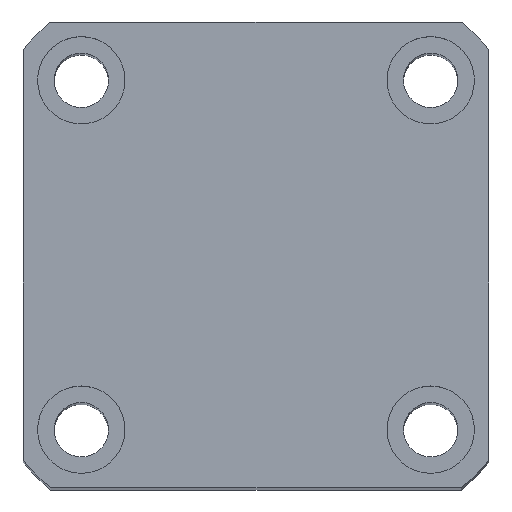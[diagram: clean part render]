
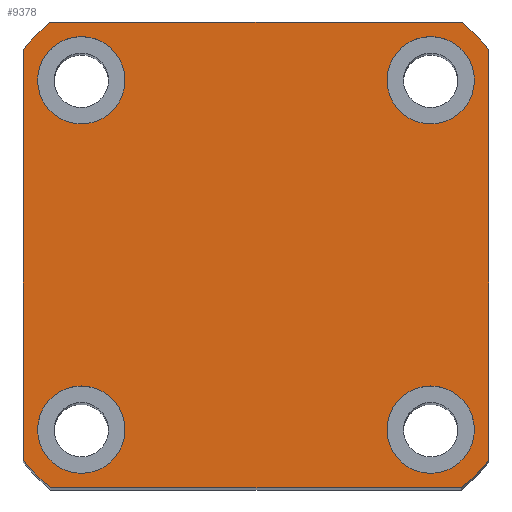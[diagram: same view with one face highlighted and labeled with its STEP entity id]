
A CAD part, top view. The second image highlights one B-rep face of the part: STEP entity #9378.
In plain terms, the highlighted planar face has unit normal (0, 0, 1) as drawn and (1, 0, 0) by its records, which use the part's own axes.
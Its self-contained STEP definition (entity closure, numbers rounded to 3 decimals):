
#14 = ORIENTED_EDGE ( 'NONE', *, *, #3415, .F. ) ;
#25 = EDGE_LOOP ( 'NONE', ( #6151, #2801 ) ) ;
#71 = FACE_BOUND ( 'NONE', #2604, .T. ) ;
#111 = ORIENTED_EDGE ( 'NONE', *, *, #1700, .T. ) ;
#141 = DIRECTION ( 'NONE',  ( 0., 0., -1. ) ) ;
#178 = CARTESIAN_POINT ( 'NONE',  ( 125., -24., 24. ) ) ;
#306 = CARTESIAN_POINT ( 'NONE',  ( 125., 21.166, 24. ) ) ;
#367 = AXIS2_PLACEMENT_3D ( 'NONE', #1210, #6965, #2026 ) ;
#671 = ORIENTED_EDGE ( 'NONE', *, *, #3177, .F. ) ;
#711 = DIRECTION ( 'NONE',  ( 1., 0., 0. ) ) ;
#719 = CARTESIAN_POINT ( 'NONE',  ( 125., 24., -21.166 ) ) ;
#810 = ORIENTED_EDGE ( 'NONE', *, *, #8453, .F. ) ;
#977 = AXIS2_PLACEMENT_3D ( 'NONE', #9831, #4869, #10656 ) ;
#1042 = DIRECTION ( 'NONE',  ( 1., 0., 0. ) ) ;
#1108 = DIRECTION ( 'NONE',  ( 1., 0., 0. ) ) ;
#1168 = CARTESIAN_POINT ( 'NONE',  ( 125., 18., -18. ) ) ;
#1170 = VERTEX_POINT ( 'NONE', #3659 ) ;
#1210 = CARTESIAN_POINT ( 'NONE',  ( 125., -18., -18. ) ) ;
#1281 = CARTESIAN_POINT ( 'NONE',  ( 125., 24., 24. ) ) ;
#1332 = AXIS2_PLACEMENT_3D ( 'NONE', #7980, #3022, #8814 ) ;
#1370 = LINE ( 'NONE', #3593, #7687 ) ;
#1700 = EDGE_CURVE ( 'NONE', #3286, #8715, #6644, .T. ) ;
#1781 = CIRCLE ( 'NONE', #1332, 4.5 ) ;
#1825 = CARTESIAN_POINT ( 'NONE',  ( 125., -18., -13.5 ) ) ;
#1840 = EDGE_LOOP ( 'NONE', ( #810, #671 ) ) ;
#1874 = EDGE_CURVE ( 'NONE', #7046, #5284, #5590, .T. ) ;
#1985 = DIRECTION ( 'NONE',  ( 0., 0., -1. ) ) ;
#1993 = DIRECTION ( 'NONE',  ( 1., 0., 0. ) ) ;
#2026 = DIRECTION ( 'NONE',  ( 0., 0., -1. ) ) ;
#2228 = AXIS2_PLACEMENT_3D ( 'NONE', #8843, #3882, #9677 ) ;
#2269 = CARTESIAN_POINT ( 'NONE',  ( 125., -24., -21.166 ) ) ;
#2272 = FACE_BOUND ( 'NONE', #9393, .T. ) ;
#2370 = CIRCLE ( 'NONE', #6762, 4.5 ) ;
#2452 = CARTESIAN_POINT ( 'NONE',  ( 125., -18., 13.5 ) ) ;
#2604 = EDGE_LOOP ( 'NONE', ( #7088, #9551 ) ) ;
#2664 = DIRECTION ( 'NONE',  ( 1., 0., 0. ) ) ;
#2686 = AXIS2_PLACEMENT_3D ( 'NONE', #5648, #711, #6485 ) ;
#2794 = EDGE_CURVE ( 'NONE', #8399, #5864, #5207, .T. ) ;
#2801 = ORIENTED_EDGE ( 'NONE', *, *, #2794, .F. ) ;
#2875 = DIRECTION ( 'NONE',  ( 0., -1., 0. ) ) ;
#2891 = EDGE_CURVE ( 'NONE', #4034, #3046, #9101, .T. ) ;
#2957 = CARTESIAN_POINT ( 'NONE',  ( 125., 24., 21.166 ) ) ;
#3022 = DIRECTION ( 'NONE',  ( 1., 0., 0. ) ) ;
#3046 = VERTEX_POINT ( 'NONE', #4027 ) ;
#3152 = VERTEX_POINT ( 'NONE', #2452 ) ;
#3177 = EDGE_CURVE ( 'NONE', #8342, #1170, #7534, .T. ) ;
#3286 = VERTEX_POINT ( 'NONE', #4998 ) ;
#3318 = VECTOR ( 'NONE', #7475, 1000. ) ;
#3415 = EDGE_CURVE ( 'NONE', #3152, #8427, #2370, .T. ) ;
#3432 = AXIS2_PLACEMENT_3D ( 'NONE', #4133, #9932, #4961 ) ;
#3593 = CARTESIAN_POINT ( 'NONE',  ( 125., 24., -24. ) ) ;
#3625 = EDGE_CURVE ( 'NONE', #5284, #7443, #10122, .T. ) ;
#3659 = CARTESIAN_POINT ( 'NONE',  ( 125., -18., -22.5 ) ) ;
#3882 = DIRECTION ( 'NONE',  ( 1., 0., 0. ) ) ;
#3894 = CARTESIAN_POINT ( 'NONE',  ( 125., 18., 18. ) ) ;
#3922 = ORIENTED_EDGE ( 'NONE', *, *, #4791, .T. ) ;
#4027 = CARTESIAN_POINT ( 'NONE',  ( 125., -21.166, 24. ) ) ;
#4033 = ORIENTED_EDGE ( 'NONE', *, *, #2891, .T. ) ;
#4034 = VERTEX_POINT ( 'NONE', #306 ) ;
#4133 = CARTESIAN_POINT ( 'NONE',  ( 125., -18., -18. ) ) ;
#4303 = ORIENTED_EDGE ( 'NONE', *, *, #5021, .F. ) ;
#4429 = ORIENTED_EDGE ( 'NONE', *, *, #4941, .T. ) ;
#4445 = FACE_BOUND ( 'NONE', #25, .T. ) ;
#4549 = ORIENTED_EDGE ( 'NONE', *, *, #3625, .T. ) ;
#4717 = DIRECTION ( 'NONE',  ( 0., 0., -1. ) ) ;
#4723 = CIRCLE ( 'NONE', #9758, 4.5 ) ;
#4782 = CARTESIAN_POINT ( 'NONE',  ( 125., -21.166, -24. ) ) ;
#4791 = EDGE_CURVE ( 'NONE', #8590, #4034, #6301, .T. ) ;
#4869 = DIRECTION ( 'NONE',  ( 1., 0., 0. ) ) ;
#4887 = VERTEX_POINT ( 'NONE', #9939 ) ;
#4941 = EDGE_CURVE ( 'NONE', #8715, #8590, #8509, .T. ) ;
#4961 = DIRECTION ( 'NONE',  ( 0., 0., -1. ) ) ;
#4998 = CARTESIAN_POINT ( 'NONE',  ( 125., 21.166, -24. ) ) ;
#5021 = EDGE_CURVE ( 'NONE', #8427, #3152, #9151, .T. ) ;
#5092 = CARTESIAN_POINT ( 'NONE',  ( 125., 0., 0. ) ) ;
#5207 = CIRCLE ( 'NONE', #8087, 4.5 ) ;
#5224 = EDGE_CURVE ( 'NONE', #8277, #4887, #1781, .T. ) ;
#5284 = VERTEX_POINT ( 'NONE', #2269 ) ;
#5355 = CIRCLE ( 'NONE', #9925, 4.5 ) ;
#5386 = AXIS2_PLACEMENT_3D ( 'NONE', #7621, #2664, #8450 ) ;
#5456 = ORIENTED_EDGE ( 'NONE', *, *, #10143, .T. ) ;
#5525 = DIRECTION ( 'NONE',  ( 0., 0., -1. ) ) ;
#5590 = LINE ( 'NONE', #178, #10005 ) ;
#5648 = CARTESIAN_POINT ( 'NONE',  ( 125., 0., 0. ) ) ;
#5864 = VERTEX_POINT ( 'NONE', #8251 ) ;
#5969 = PLANE ( 'NONE',  #7703 ) ;
#5989 = EDGE_CURVE ( 'NONE', #5864, #8399, #4723, .T. ) ;
#6042 = CARTESIAN_POINT ( 'NONE',  ( 125., -18., 18. ) ) ;
#6063 = EDGE_LOOP ( 'NONE', ( #10325, #111, #4429, #3922, #4033, #5456, #7792, #4549 ) ) ;
#6112 = VECTOR ( 'NONE', #2875, 1000. ) ;
#6151 = ORIENTED_EDGE ( 'NONE', *, *, #5989, .F. ) ;
#6301 = CIRCLE ( 'NONE', #977, 32. ) ;
#6363 = DIRECTION ( 'NONE',  ( 1., 0., 0. ) ) ;
#6382 = CIRCLE ( 'NONE', #2228, 32. ) ;
#6485 = DIRECTION ( 'NONE',  ( 0., 0., -1. ) ) ;
#6592 = CARTESIAN_POINT ( 'NONE',  ( 125., 0., 0. ) ) ;
#6644 = CIRCLE ( 'NONE', #6831, 32. ) ;
#6674 = CIRCLE ( 'NONE', #367, 4.5 ) ;
#6762 = AXIS2_PLACEMENT_3D ( 'NONE', #6042, #1108, #6870 ) ;
#6804 = DIRECTION ( 'NONE',  ( 0., 0., -1. ) ) ;
#6831 = AXIS2_PLACEMENT_3D ( 'NONE', #6592, #6363, #5525 ) ;
#6870 = DIRECTION ( 'NONE',  ( 0., 0., -1. ) ) ;
#6929 = DIRECTION ( 'NONE',  ( 1., 0., 0. ) ) ;
#6938 = CARTESIAN_POINT ( 'NONE',  ( 125., 18., -18. ) ) ;
#6965 = DIRECTION ( 'NONE',  ( 1., 0., 0. ) ) ;
#7046 = VERTEX_POINT ( 'NONE', #7558 ) ;
#7088 = ORIENTED_EDGE ( 'NONE', *, *, #5224, .F. ) ;
#7179 = FACE_BOUND ( 'NONE', #1840, .T. ) ;
#7443 = VERTEX_POINT ( 'NONE', #4782 ) ;
#7475 = DIRECTION ( 'NONE',  ( 0., 0., 1. ) ) ;
#7487 = CARTESIAN_POINT ( 'NONE',  ( 125., 18., 13.5 ) ) ;
#7534 = CIRCLE ( 'NONE', #3432, 4.5 ) ;
#7558 = CARTESIAN_POINT ( 'NONE',  ( 125., -24., 21.166 ) ) ;
#7621 = CARTESIAN_POINT ( 'NONE',  ( 125., -18., 18. ) ) ;
#7687 = VECTOR ( 'NONE', #9391, 1000. ) ;
#7703 = AXIS2_PLACEMENT_3D ( 'NONE', #5092, #1042, #6804 ) ;
#7769 = DIRECTION ( 'NONE',  ( 0., 0., -1. ) ) ;
#7792 = ORIENTED_EDGE ( 'NONE', *, *, #1874, .T. ) ;
#7980 = CARTESIAN_POINT ( 'NONE',  ( 125., 18., 18. ) ) ;
#8087 = AXIS2_PLACEMENT_3D ( 'NONE', #1168, #6929, #1985 ) ;
#8251 = CARTESIAN_POINT ( 'NONE',  ( 125., 18., -22.5 ) ) ;
#8277 = VERTEX_POINT ( 'NONE', #7487 ) ;
#8313 = CARTESIAN_POINT ( 'NONE',  ( 125., 24., 24. ) ) ;
#8342 = VERTEX_POINT ( 'NONE', #1825 ) ;
#8399 = VERTEX_POINT ( 'NONE', #8492 ) ;
#8427 = VERTEX_POINT ( 'NONE', #10148 ) ;
#8450 = DIRECTION ( 'NONE',  ( 0., 0., -1. ) ) ;
#8453 = EDGE_CURVE ( 'NONE', #1170, #8342, #6674, .T. ) ;
#8492 = CARTESIAN_POINT ( 'NONE',  ( 125., 18., -13.5 ) ) ;
#8509 = LINE ( 'NONE', #8313, #3318 ) ;
#8590 = VERTEX_POINT ( 'NONE', #2957 ) ;
#8602 = FACE_OUTER_BOUND ( 'NONE', #6063, .T. ) ;
#8715 = VERTEX_POINT ( 'NONE', #719 ) ;
#8814 = DIRECTION ( 'NONE',  ( 0., 0., -1. ) ) ;
#8843 = CARTESIAN_POINT ( 'NONE',  ( 125., 0., 0. ) ) ;
#9101 = LINE ( 'NONE', #1281, #6112 ) ;
#9151 = CIRCLE ( 'NONE', #5386, 4.5 ) ;
#9378 = ADVANCED_FACE ( 'NONE', ( #7179, #2272, #4445, #71, #8602 ), #5969, .T. ) ;
#9391 = DIRECTION ( 'NONE',  ( 0., 1., 0. ) ) ;
#9393 = EDGE_LOOP ( 'NONE', ( #14, #4303 ) ) ;
#9551 = ORIENTED_EDGE ( 'NONE', *, *, #9572, .F. ) ;
#9572 = EDGE_CURVE ( 'NONE', #4887, #8277, #5355, .T. ) ;
#9677 = DIRECTION ( 'NONE',  ( 0., 0., -1. ) ) ;
#9686 = DIRECTION ( 'NONE',  ( 1., 0., 0. ) ) ;
#9758 = AXIS2_PLACEMENT_3D ( 'NONE', #6938, #1993, #7769 ) ;
#9831 = CARTESIAN_POINT ( 'NONE',  ( 125., 0., 0. ) ) ;
#9877 = EDGE_CURVE ( 'NONE', #7443, #3286, #1370, .T. ) ;
#9925 = AXIS2_PLACEMENT_3D ( 'NONE', #3894, #9686, #4717 ) ;
#9932 = DIRECTION ( 'NONE',  ( 1., 0., 0. ) ) ;
#9939 = CARTESIAN_POINT ( 'NONE',  ( 125., 18., 22.5 ) ) ;
#10005 = VECTOR ( 'NONE', #141, 1000. ) ;
#10122 = CIRCLE ( 'NONE', #2686, 32. ) ;
#10143 = EDGE_CURVE ( 'NONE', #3046, #7046, #6382, .T. ) ;
#10148 = CARTESIAN_POINT ( 'NONE',  ( 125., -18., 22.5 ) ) ;
#10325 = ORIENTED_EDGE ( 'NONE', *, *, #9877, .T. ) ;
#10656 = DIRECTION ( 'NONE',  ( 0., 0., -1. ) ) ;
